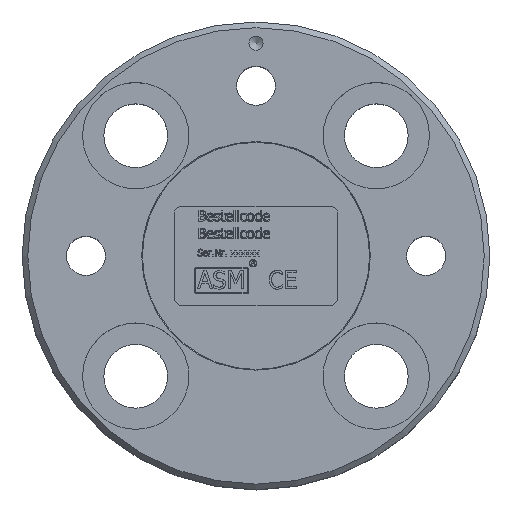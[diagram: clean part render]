
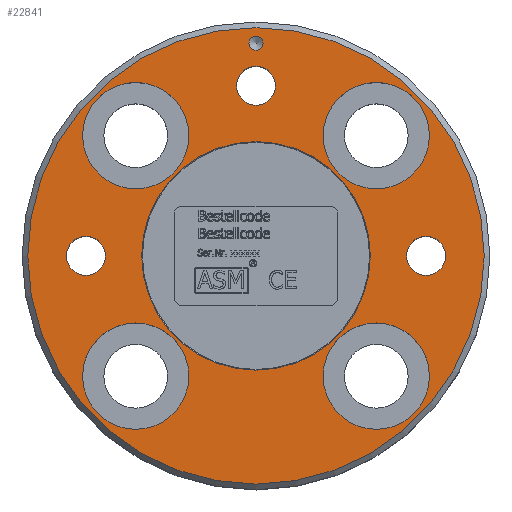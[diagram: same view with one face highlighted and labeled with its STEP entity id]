
A CAD part, top view. The second image highlights one B-rep face of the part: STEP entity #22841.
In plain terms, the highlighted planar face has unit normal (0, 0, 1).
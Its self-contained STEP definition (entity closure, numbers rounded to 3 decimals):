
#22381=CARTESIAN_POINT('',(24.471,16.971,20.0));
#22382=VERTEX_POINT('',#22381);
#22383=CARTESIAN_POINT('',(16.971,16.971,20.0));
#22384=DIRECTION('',(0.0,0.0,-1.0));
#22385=DIRECTION('',(1.0,0.0,0.0));
#22386=AXIS2_PLACEMENT_3D('',#22383,#22384,#22385);
#22387=CIRCLE('',#22386,7.5);
#22388=EDGE_CURVE('',#22382,#22382,#22387,.T.);
#22491=CARTESIAN_POINT('',(-16.971,24.471,20.0));
#22492=VERTEX_POINT('',#22491);
#22493=CARTESIAN_POINT('',(-16.971,16.971,20.0));
#22494=DIRECTION('',(0.0,0.0,-1.0));
#22495=DIRECTION('',(0.0,1.0,0.0));
#22496=AXIS2_PLACEMENT_3D('',#22493,#22494,#22495);
#22497=CIRCLE('',#22496,7.5);
#22498=EDGE_CURVE('',#22492,#22492,#22497,.T.);
#22601=CARTESIAN_POINT('',(-24.471,-16.971,20.0));
#22602=VERTEX_POINT('',#22601);
#22603=CARTESIAN_POINT('',(-16.971,-16.971,20.0));
#22604=DIRECTION('',(0.0,0.0,-1.0));
#22605=DIRECTION('',(-1.0,0.0,0.0));
#22606=AXIS2_PLACEMENT_3D('',#22603,#22604,#22605);
#22607=CIRCLE('',#22606,7.5);
#22608=EDGE_CURVE('',#22602,#22602,#22607,.T.);
#22711=CARTESIAN_POINT('',(16.971,-24.471,20.0));
#22712=VERTEX_POINT('',#22711);
#22713=CARTESIAN_POINT('',(16.971,-16.971,20.0));
#22714=DIRECTION('',(0.0,0.0,-1.0));
#22715=DIRECTION('',(0.0,-1.0,0.0));
#22716=AXIS2_PLACEMENT_3D('',#22713,#22714,#22715);
#22717=CIRCLE('',#22716,7.5);
#22718=EDGE_CURVE('',#22712,#22712,#22717,.T.);
#22754=CARTESIAN_POINT('',(16.125,0.,20.0));
#22755=VERTEX_POINT('',#22754);
#22756=CARTESIAN_POINT('',(0.0,0.0,20.0));
#22757=DIRECTION('',(0.0,0.0,1.0));
#22758=DIRECTION('',(-1.0,0.0,0.0));
#22759=AXIS2_PLACEMENT_3D('',#22756,#22757,#22758);
#22760=CIRCLE('',#22759,16.125);
#22761=EDGE_CURVE('',#22755,#22755,#22760,.T.);
#22766=CARTESIAN_POINT('',(0.0,0.0,20.0));
#22767=DIRECTION('',(0.0,0.0,-1.0));
#22768=DIRECTION('',(-1.0,0.0,0.0));
#22769=AXIS2_PLACEMENT_3D('',#22766,#22767,#22768);
#22770=PLANE('',#22769);
#22771=CARTESIAN_POINT('',(32.2,0.,20.0));
#22772=VERTEX_POINT('',#22771);
#22773=CARTESIAN_POINT('',(0.0,0.0,20.0));
#22774=DIRECTION('',(0.0,0.0,-1.0));
#22775=DIRECTION('',(-1.0,0.0,0.0));
#22776=AXIS2_PLACEMENT_3D('',#22773,#22774,#22775);
#22777=CIRCLE('',#22776,32.2);
#22778=EDGE_CURVE('',#22772,#22772,#22777,.T.);
#22779=ORIENTED_EDGE('',*,*,#22778,.F.);
#22780=EDGE_LOOP('',(#22779));
#22781=FACE_OUTER_BOUND('',#22780,.T.);
#22782=CARTESIAN_POINT('',(24.,-2.75,20.0));
#22783=VERTEX_POINT('',#22782);
#22784=CARTESIAN_POINT('',(24.,0.,20.0));
#22785=DIRECTION('',(0.0,0.0,-1.0));
#22786=DIRECTION('',(0.0,1.0,0.0));
#22787=AXIS2_PLACEMENT_3D('',#22784,#22785,#22786);
#22788=CIRCLE('',#22787,2.75);
#22789=EDGE_CURVE('',#22783,#22783,#22788,.T.);
#22790=ORIENTED_EDGE('',*,*,#22789,.T.);
#22791=EDGE_LOOP('',(#22790));
#22792=FACE_BOUND('',#22791,.T.);
#22793=CARTESIAN_POINT('',(-24.,2.75,20.0));
#22794=VERTEX_POINT('',#22793);
#22795=CARTESIAN_POINT('',(-24.,0.,20.0));
#22796=DIRECTION('',(0.0,0.0,-1.0));
#22797=DIRECTION('',(0.0,-1.0,0.0));
#22798=AXIS2_PLACEMENT_3D('',#22795,#22796,#22797);
#22799=CIRCLE('',#22798,2.75);
#22800=EDGE_CURVE('',#22794,#22794,#22799,.T.);
#22801=ORIENTED_EDGE('',*,*,#22800,.T.);
#22802=EDGE_LOOP('',(#22801));
#22803=FACE_BOUND('',#22802,.T.);
#22804=CARTESIAN_POINT('',(2.75,24.,20.0));
#22805=VERTEX_POINT('',#22804);
#22806=CARTESIAN_POINT('',(0.0,24.,20.0));
#22807=DIRECTION('',(0.0,0.0,-1.0));
#22808=DIRECTION('',(-1.0,0.0,0.0));
#22809=AXIS2_PLACEMENT_3D('',#22806,#22807,#22808);
#22810=CIRCLE('',#22809,2.75);
#22811=EDGE_CURVE('',#22805,#22805,#22810,.T.);
#22812=ORIENTED_EDGE('',*,*,#22811,.T.);
#22813=EDGE_LOOP('',(#22812));
#22814=FACE_BOUND('',#22813,.T.);
#22815=CARTESIAN_POINT('',(1.0,30.0,20.0));
#22816=VERTEX_POINT('',#22815);
#22817=CARTESIAN_POINT('',(0.0,30.0,20.0));
#22818=DIRECTION('',(0.0,0.0,-1.0));
#22819=DIRECTION('',(1.0,0.0,0.0));
#22820=AXIS2_PLACEMENT_3D('',#22817,#22818,#22819);
#22821=CIRCLE('',#22820,1.0);
#22822=EDGE_CURVE('',#22816,#22816,#22821,.T.);
#22823=ORIENTED_EDGE('',*,*,#22822,.T.);
#22824=EDGE_LOOP('',(#22823));
#22825=FACE_BOUND('',#22824,.T.);
#22826=ORIENTED_EDGE('',*,*,#22761,.F.);
#22827=EDGE_LOOP('',(#22826));
#22828=FACE_BOUND('',#22827,.T.);
#22829=ORIENTED_EDGE('',*,*,#22718,.T.);
#22830=EDGE_LOOP('',(#22829));
#22831=FACE_BOUND('',#22830,.T.);
#22832=ORIENTED_EDGE('',*,*,#22608,.T.);
#22833=EDGE_LOOP('',(#22832));
#22834=FACE_BOUND('',#22833,.T.);
#22835=ORIENTED_EDGE('',*,*,#22498,.T.);
#22836=EDGE_LOOP('',(#22835));
#22837=FACE_BOUND('',#22836,.T.);
#22838=ORIENTED_EDGE('',*,*,#22388,.T.);
#22839=EDGE_LOOP('',(#22838));
#22840=FACE_BOUND('',#22839,.T.);
#22841=ADVANCED_FACE('',(#22781,#22792,#22803,#22814,#22825,#22828,#22831,#22834,#22837,#22840),#22770,.F.);
